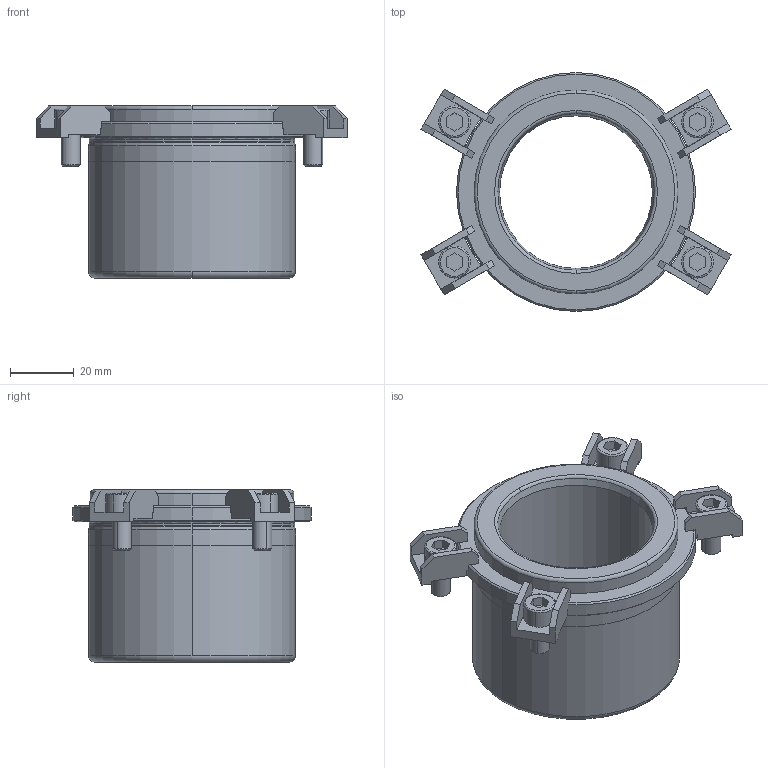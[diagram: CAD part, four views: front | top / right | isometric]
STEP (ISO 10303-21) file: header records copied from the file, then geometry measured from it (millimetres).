
FILE_DESCRIPTION((''),'2;1');
FILE_NAME('B42_040_044.stp','2008-11-04T14:36:26',(''),(''),'Mechanical Desktop 2009','Mechanical Desktop 2009',', , ');
FILE_SCHEMA(('CONFIG_CONTROL_DESIGN'));
Length unit declared in the file: millimetre
Products named in the file (2): Product; blmdl1
Assembly tree (1 placements, depth 2):
  Product
    blmdl1
Bounding box: 97.32 x 75 x 54 mm (x, y, z)
Volume: 92073.8 mm3; surface area: 30595.3 mm2
Topology: 9 solids, 9 shells, 233 faces, 598 edges, 394 vertices
Faces by surface type: plane 137, cylinder 48, cone 20, torus 16, bspline 12
Entity records: 7707 total; most frequent: CARTESIAN_POINT 1755, DIRECTION 1258, ORIENTED_EDGE 1196, EDGE_CURVE 598, AXIS2_PLACEMENT_3D 437, VERTEX_POINT 394, VECTOR 384, LINE 384
